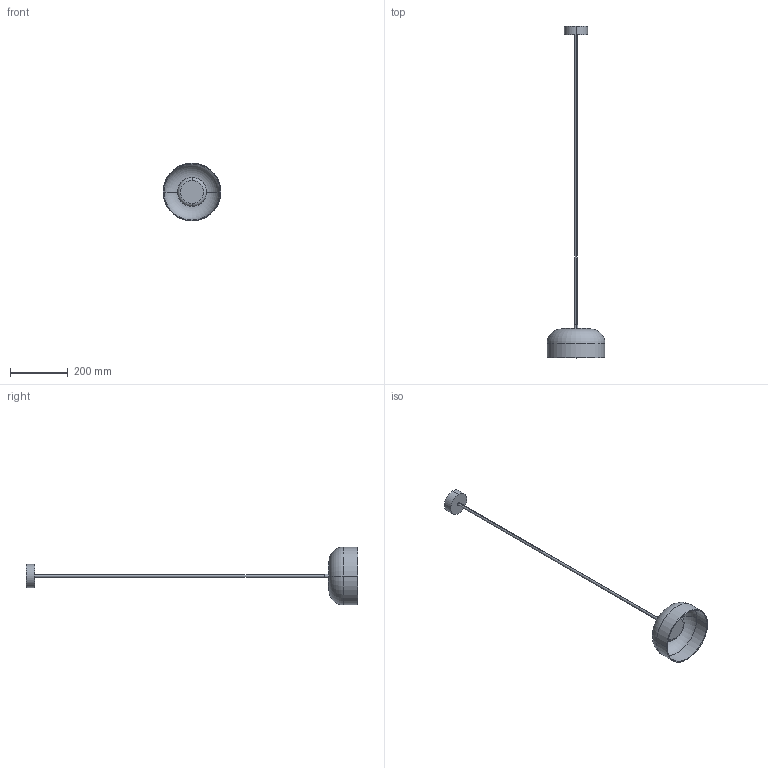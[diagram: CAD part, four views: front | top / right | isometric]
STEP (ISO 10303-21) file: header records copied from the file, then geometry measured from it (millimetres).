
FILE_DESCRIPTION (( 'STEP AP214' ), '1' );
FILE_NAME ('IPON_C1316-1.STEP', '2023-10-18T08:15:32', ( '' ), ( '' ), 'SwSTEP 2.0', 'SolidWorks 2018', '' );
FILE_SCHEMA (( 'AUTOMOTIVE_DESIGN' ));
Length unit declared in the file: millimetre
Products named in the file (2): IPON_C1316-1
Bounding box: 200 x 1147 x 200 mm (x, y, z)
Volume: 762850 mm3; surface area: 279220.7 mm2
Topology: 5 solids, 5 shells, 41 faces, 72 edges, 44 vertices
Faces by surface type: cylinder 18, plane 13, torus 10
Entity records: 1089 total; most frequent: DIRECTION 212, CARTESIAN_POINT 159, ORIENTED_EDGE 144, AXIS2_PLACEMENT_3D 97, EDGE_CURVE 72, CIRCLE 54, VERTEX_POINT 44, EDGE_LOOP 44
